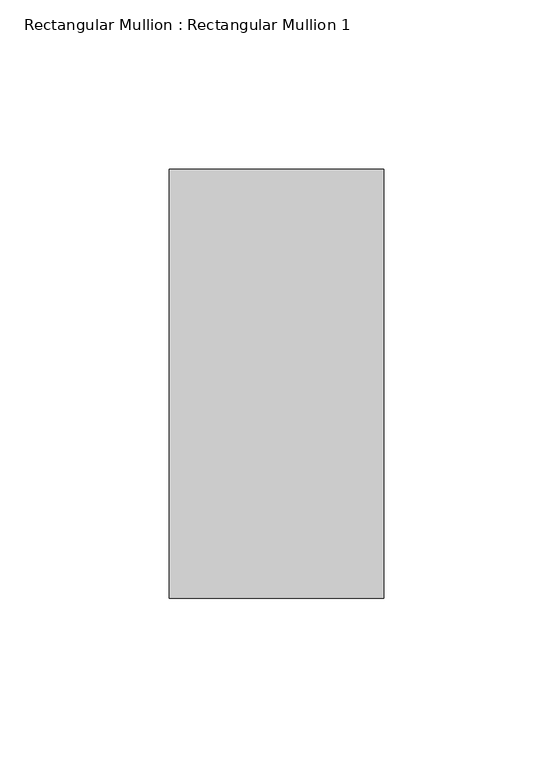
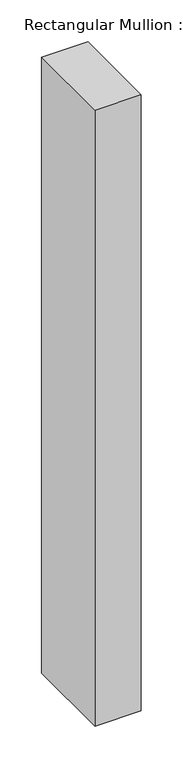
"""IFC4 building model written with IfcOpenShell, lengths in millimetres: member geometry, Rectangular Mullion : Rectangular Mullion 1."""

import ifcopenshell
import ifcopenshell.guid

model = None  # the IFC model being written
_history = None  # IfcOwnerHistory: only IFC2X3 demands one
_inside = {}  # id of a spatial element -> (the spatial element, [elements in it])
_under = {}  # id of a project, library or spatial element -> (it, [spatial elements below it])
_declared = {}  # id of a project -> (the project, [libraries it declares])
_typed = {}  # id of a type object -> (the type object, [elements of that type])
_made_of = {}  # id of a material, layer set ... -> (it, [elements and type objects made of it])


def new_model(schema):
    """Start an empty IFC model of exactly this schema.

    Asked for "IFC4X3", IfcOpenShell would pick the latest addendum, in which some entities
    have other attributes; the version numbers below select the first issue.
    IFC2X3 requires an IfcOwnerHistory on every rooted entity: one is made here for all.
    """
    global model, _history
    if schema == "IFC4X3":
        model = ifcopenshell.file(schema_version=(4, 3, 0, 0))
    else:
        model = ifcopenshell.file(schema=schema)
    _inside.clear()
    _under.clear()
    _declared.clear()
    _typed.clear()
    _made_of.clear()
    _history = None
    if model.schema == "IFC2X3":
        org = make("IfcOrganization", Name="unknown")
        user = make(
            "IfcPersonAndOrganization",
            ThePerson=make("IfcPerson", FamilyName="unknown"),
            TheOrganization=org,
        )
        app = make(
            "IfcApplication",
            ApplicationDeveloper=org,
            Version="unknown",
            ApplicationFullName="unknown",
            ApplicationIdentifier="unknown",
        )
        _history = make(
            "IfcOwnerHistory",
            OwningUser=user,
            OwningApplication=app,
            ChangeAction="ADDED",
            CreationDate=0,
        )
    return model


def make(cls, **values):
    """One entity of the class cls with the attributes given. An attribute that is None is left unset."""
    return model.create_entity(
        cls, **{name: value for name, value in values.items() if value is not None}
    )


def rooted(cls, **values):
    """An entity with a GlobalId (a new one), such as an element, a storey or a relation."""
    return make(cls, GlobalId=ifcopenshell.guid.new(), OwnerHistory=_history, **values)


def si_unit(unit_type, name, prefix=None):
    """IfcSIUnit, for example si_unit("LENGTHUNIT", "METRE", prefix="MILLI")."""
    return make("IfcSIUnit", UnitType=unit_type, Prefix=prefix, Name=name)


def assignment(units):
    """IfcUnitAssignment: the units of a project."""
    return None if units is None else make("IfcUnitAssignment", Units=units)


def point(xyz):
    """IfcCartesianPoint."""
    return None if xyz is None else make("IfcCartesianPoint", Coordinates=xyz)


def direction(xyz):
    """IfcDirection."""
    return None if xyz is None else make("IfcDirection", DirectionRatios=xyz)


def frame(location, z_axis=None, x_axis=None):
    """IfcAxis2Placement3D, a coordinate frame: its origin and axes. An axis left out is left unset."""
    return make(
        "IfcAxis2Placement3D",
        Location=point(location),
        Axis=direction(z_axis),
        RefDirection=direction(x_axis),
    )


def origin():
    """The frame at (0, 0, 0) with its axes left unset."""
    return frame((0.0, 0.0, 0.0))


def place(relative_to, where):
    """IfcLocalPlacement: puts the frame where relative to a parent placement (None: the world)."""
    return make(
        "IfcLocalPlacement", PlacementRelTo=relative_to, RelativePlacement=where
    )


def context(
    kind, dimensions, precision=None, world=None, true_north=None, identifier=None
):
    """IfcGeometricRepresentationContext, for example the 3D "Model" context."""
    return make(
        "IfcGeometricRepresentationContext",
        ContextIdentifier=identifier,
        ContextType=kind,
        CoordinateSpaceDimension=dimensions,
        Precision=precision,
        WorldCoordinateSystem=world,
        TrueNorth=true_north,
    )


def project(units=None, contexts=None):
    """IfcProject with its units and contexts."""
    return rooted(
        "IfcProject",
        Name="project",
        RepresentationContexts=contexts,
        UnitsInContext=assignment(units),
    )


def spatial(cls, under=None, at=None, **own):
    """A site, building, storey or space (cls), placed at a placement, below another one or the project."""
    s = rooted(cls, ObjectPlacement=at, **own)
    if under is not None:
        _under.setdefault(under.id(), (under, []))[1].append(s)
    return s


def polyline(points):
    """IfcPolyline through the points."""
    return make("IfcPolyline", Points=[point(p) for p in points])


def outline(outer, holes=None, kind="AREA"):
    """IfcArbitraryClosedProfileDef: a profile drawn as a closed curve; with holes, ...WithVoids."""
    if holes is None:
        return make("IfcArbitraryClosedProfileDef", ProfileType=kind, OuterCurve=outer)
    return make(
        "IfcArbitraryProfileDefWithVoids",
        ProfileType=kind,
        OuterCurve=outer,
        InnerCurves=holes,
    )


def extrude(swept, where, along, depth):
    """IfcExtrudedAreaSolid: the profile swept, set in the frame where, extruded along a direction by depth."""
    return make(
        "IfcExtrudedAreaSolid",
        SweptArea=swept,
        Position=where,
        ExtrudedDirection=direction(along),
        Depth=depth,
    )


def shape(context_of_items, identifier, shape_type, items):
    """IfcShapeRepresentation: the items that make up one representation, for example the "Body"."""
    return make(
        "IfcShapeRepresentation",
        ContextOfItems=context_of_items,
        RepresentationIdentifier=identifier,
        RepresentationType=shape_type,
        Items=items,
    )


def source(mapping_origin, context_of_items, identifier, shape_type, items):
    """IfcRepresentationMap: a shape defined once, which mapped items show again and again."""
    return make(
        "IfcRepresentationMap",
        MappingOrigin=mapping_origin,
        MappedRepresentation=shape(context_of_items, identifier, shape_type, items),
    )


def transform(
    local_origin,
    x_axis=None,
    y_axis=None,
    z_axis=None,
    scale=None,
    scale2=None,
    scale3=None,
    uniform=True,
):
    """IfcCartesianTransformationOperator3D, or its non-uniform kind. x_axis, y_axis, z_axis: its Axis1, 2, 3."""
    if uniform:
        return make(
            "IfcCartesianTransformationOperator3D",
            Axis1=direction(x_axis),
            Axis2=direction(y_axis),
            LocalOrigin=point(local_origin),
            Scale=scale,
            Axis3=direction(z_axis),
        )
    return make(
        "IfcCartesianTransformationOperator3DnonUniform",
        Axis1=direction(x_axis),
        Axis2=direction(y_axis),
        LocalOrigin=point(local_origin),
        Scale=scale,
        Axis3=direction(z_axis),
        Scale2=scale2,
        Scale3=scale3,
    )


def mapped(mapping_source, mapping_target):
    """IfcMappedItem: shows the shape of a source again, moved by a transform."""
    return make(
        "IfcMappedItem", MappingSource=mapping_source, MappingTarget=mapping_target
    )


def made_of(thing, what):
    """Note that an element or type object is made of a material, layer set ...; save() writes the relation."""
    if what is not None:
        _made_of.setdefault(what.id(), (what, []))[1].append(thing)
    return thing


def element(
    cls,
    number,
    at=None,
    inside=None,
    cuts=None,
    type_object=None,
    material=None,
    context=None,
    identifier="Body",
    shape_type=None,
    held_by="IfcProductDefinitionShape",
    body=None,
    shapes=None,
    **own,
):
    """One element of the class cls, such as IfcWall. Its Tag is "e" and its number.

    at: its placement. inside: the storey or other place that contains it. cuts: it is an
    opening in that element (IfcRelVoidsElement). A single representation is given by context,
    identifier, shape_type and body (its items); several are given by shapes. held_by: the class
    of the entity that holds the representations. save() writes the other relations.
    """
    e = rooted(cls, Tag="e%d" % number, ObjectPlacement=at, **own)
    if body is not None:
        shapes = [shape(context, identifier, shape_type, body)]
    if shapes is not None:
        e.Representation = make(held_by, Representations=shapes)
    if inside is not None:
        _inside.setdefault(inside.id(), (inside, []))[1].append(e)
    if cuts is not None:
        rooted(
            "IfcRelVoidsElement", RelatingBuildingElement=cuts, RelatedOpeningElement=e
        )
    if type_object is not None:
        _typed.setdefault(type_object.id(), (type_object, []))[1].append(e)
    return made_of(e, material)


def aggregate(whole, parts):
    """IfcRelAggregates: a whole, such as a stair, and the parts it consists of."""
    return rooted("IfcRelAggregates", RelatingObject=whole, RelatedObjects=parts)


def save(model, path):
    """Write the relations noted so far, then the file.

    IfcRelAggregates (storeys below a building ...), IfcRelContainedInSpatialStructure (elements
    in a storey), IfcRelDefinesByType, IfcRelAssociatesMaterial and IfcRelDeclares: one each for
    every whole, place, type object, material and project.
    """
    for whole, parts in _under.values():
        aggregate(whole, parts)
    for where, things in _inside.values():
        rooted(
            "IfcRelContainedInSpatialStructure",
            RelatedElements=things,
            RelatingStructure=where,
        )
    for kind, things in _typed.values():
        rooted("IfcRelDefinesByType", RelatedObjects=things, RelatingType=kind)
    for what, things in _made_of.values():
        rooted("IfcRelAssociatesMaterial", RelatedObjects=things, RelatingMaterial=what)
    for by, libraries in _declared.values():
        rooted("IfcRelDeclares", RelatingContext=by, RelatedDefinitions=libraries)
    model.write(path)


def rectangular_mullion_rectangular_mullion_1_e0487b50(model_context):
    return source(origin(), model_context, "Body", "SweptSolid", [
        extrude(outline(polyline([(31.75, 63.5), (31.75, -63.5), (-31.75, -63.5), (-31.75, 63.5), (31.75, 63.5)])), frame((0.0, 0.0, -895.35), z_axis=(0.0, 0.0, 1.0), x_axis=(1.0, 0.0, 0.0)), (0.0, 0.0, 1.0), 895.35),
    ])


if __name__ == "__main__":
    model = new_model("IFC4")
    model_context = context("Model", 3, world=origin())
    ifc_project = project(units=[si_unit("LENGTHUNIT", "METRE", prefix="MILLI")], contexts=[model_context])
    site = spatial("IfcSite", under=ifc_project)
    building = spatial("IfcBuilding", under=site)
    placement = place(None, origin())
    rectangular_mullion_rectangular_mullion_1_shape = rectangular_mullion_rectangular_mullion_1_e0487b50(model_context)
    element("IfcMember", 1, ObjectType="Rectangular Mullion : Rectangular Mullion 1", at=placement, inside=building, context=model_context, shape_type="MappedRepresentation", body=[
        mapped(rectangular_mullion_rectangular_mullion_1_shape, transform((0.0, 0.0, 0.0), x_axis=(1.0, 0.0, 0.0), y_axis=(0.0, 1.0, 0.0), z_axis=(0.0, 0.0, 1.0))),
    ])
    save(model, "model.ifc")
